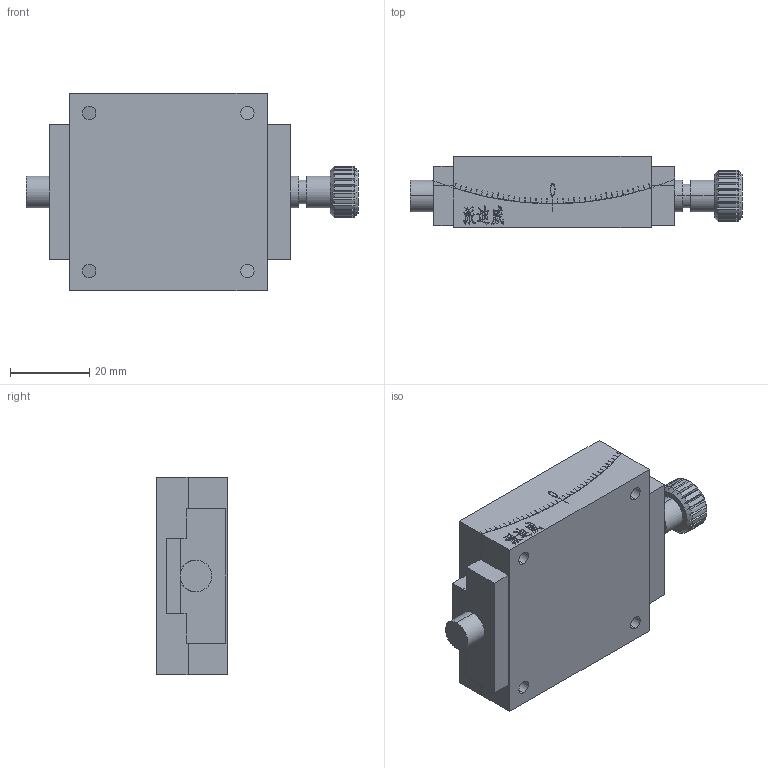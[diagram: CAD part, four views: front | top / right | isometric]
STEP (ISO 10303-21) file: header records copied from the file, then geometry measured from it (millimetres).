
FILE_DESCRIPTION (( 'STEP AP214' ), '1' );
FILE_NAME ('PT-SD368.STEP', '2022-11-06T07:20:04', ( '' ), ( '' ), 'SwSTEP 2.0', 'SolidWorks 2017', '' );
FILE_SCHEMA (( 'AUTOMOTIVE_DESIGN' ));
Length unit declared in the file: millimetre
Products named in the file (3): PT-SD350-4; PT-SD368; PT-SD350-3
Assembly tree (2 placements, depth 2):
  PT-SD368
    PT-SD350-3
    PT-SD350-4
Bounding box: 84 x 18 x 50 mm (x, y, z)
Volume: 50139.9 mm3; surface area: 17498.5 mm2
Topology: 2 solids, 2 shells, 681 faces, 1929 edges, 1263 vertices
Faces by surface type: plane 482, bspline 92, cylinder 77, cone 30
Entity records: 26553 total; most frequent: CARTESIAN_POINT 9226, ORIENTED_EDGE 3806, DIRECTION 3043, EDGE_CURVE 1903, LINE 1371, VECTOR 1371, VERTEX_POINT 1263, AXIS2_PLACEMENT_3D 836
